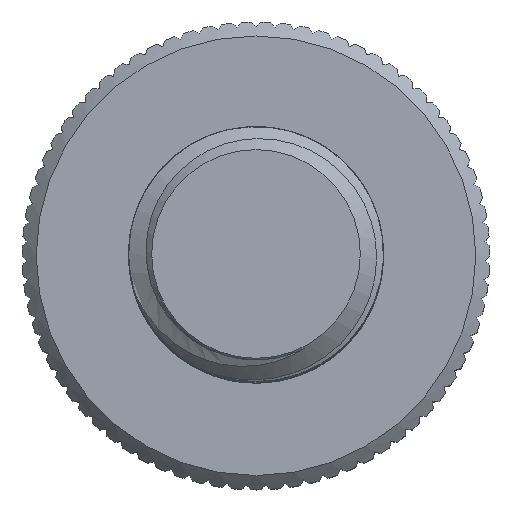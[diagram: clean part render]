
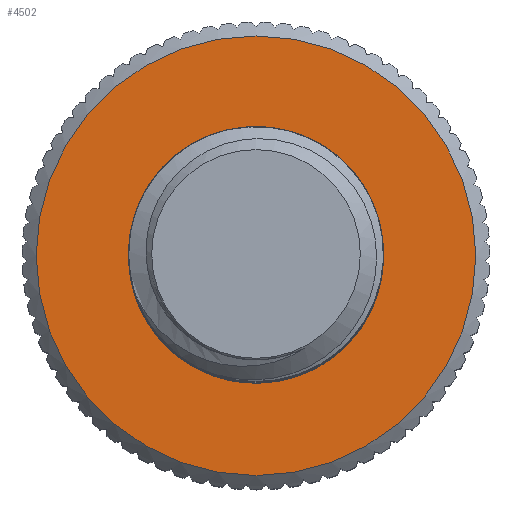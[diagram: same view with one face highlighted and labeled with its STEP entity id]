
A CAD part, top view. The second image highlights one B-rep face of the part: STEP entity #4502.
In plain terms, the highlighted planar face has unit normal (0, 0, 1).
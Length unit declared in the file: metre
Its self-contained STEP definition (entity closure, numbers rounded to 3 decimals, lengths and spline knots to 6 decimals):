
#1192=ORIENTED_EDGE('',*,*,#2551,.T.);
#1193=ORIENTED_EDGE('',*,*,#2552,.F.);
#2551=EDGE_CURVE('',#3193,#3193,#3519,.T.);
#2552=EDGE_CURVE('',#3194,#3194,#3520,.T.);
#3193=VERTEX_POINT('',#8108);
#3194=VERTEX_POINT('',#8110);
#3519=CIRCLE('',#5065,0.002585);
#3520=CIRCLE('',#5066,0.0015);
#3832=EDGE_LOOP('',(#1192));
#3833=EDGE_LOOP('',(#1193));
#4087=FACE_BOUND('',#3832,.T.);
#4088=FACE_BOUND('',#3833,.T.);
#4342=PLANE('',#5064);
#4502=ADVANCED_FACE('',(#4087,#4088),#4342,.T.);
#5064=AXIS2_PLACEMENT_3D('',#8106,#6450,#6451);
#5065=AXIS2_PLACEMENT_3D('',#8107,#6452,#6453);
#5066=AXIS2_PLACEMENT_3D('',#8109,#6454,#6455);
#6450=DIRECTION('',(0.,0.,1.));
#6451=DIRECTION('',(0.,-1.,0.));
#6452=DIRECTION('',(0.,0.,1.));
#6453=DIRECTION('',(0.,1.,0.));
#6454=DIRECTION('',(0.,0.,1.));
#6455=DIRECTION('',(0.,-1.,0.));
#8106=CARTESIAN_POINT('',(0.,0.002585,0.));
#8107=CARTESIAN_POINT('',(0.,0.,0.));
#8108=CARTESIAN_POINT('',(0.,0.002585,0.));
#8109=CARTESIAN_POINT('',(0.,0.,0.));
#8110=CARTESIAN_POINT('',(0.,-0.0015,0.));
